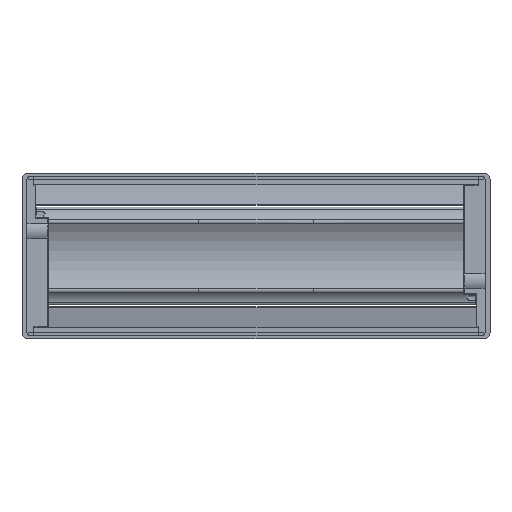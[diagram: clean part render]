
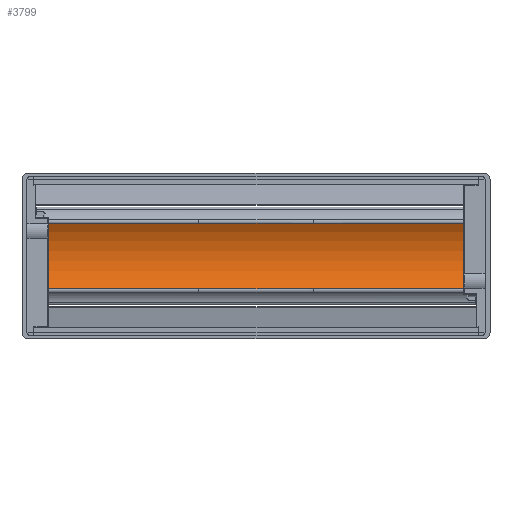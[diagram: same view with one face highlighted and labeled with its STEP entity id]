
A CAD part, front view. The second image highlights one B-rep face of the part: STEP entity #3799.
In plain terms, the highlighted cylindrical face has radius 53.988 mm (diameter 107.977 mm), a partial arc.
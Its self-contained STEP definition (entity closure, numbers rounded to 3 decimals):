
#262 = DIRECTION ( 'NONE',  ( 1., 0., 0. ) ) ;
#325 = DIRECTION ( 'NONE',  ( 0., 0.003, -1. ) ) ;
#403 = CARTESIAN_POINT ( 'NONE',  ( -134., -9.764, -171.615 ) ) ;
#426 = EDGE_CURVE ( 'NONE', #10865, #10960, #11733, .T. ) ;
#430 = DIRECTION ( 'NONE',  ( 0., 0.003, -1. ) ) ;
#574 = CARTESIAN_POINT ( 'NONE',  ( -134., -55.605, -200.135 ) ) ;
#596 = VERTEX_POINT ( 'NONE', #11322 ) ;
#629 = CARTESIAN_POINT ( 'NONE',  ( -89.5, -9.605, -228.397 ) ) ;
#728 = CARTESIAN_POINT ( 'NONE',  ( -0.5, -9.605, -228.397 ) ) ;
#730 = CARTESIAN_POINT ( 'NONE',  ( -89.5, -9.764, -171.615 ) ) ;
#830 = B_SPLINE_CURVE_WITH_KNOTS ( 'NONE', 3,
 ( #8874, #8980, #730, #7082 ),
 .UNSPECIFIED., .F., .F.,
 ( 4, 4 ),
 ( 0.502, 0.973 ),
 .UNSPECIFIED. ) ;
#1150 = CARTESIAN_POINT ( 'NONE',  ( 233., -55.605, -200.135 ) ) ;
#1256 = EDGE_CURVE ( 'NONE', #10960, #5294, #9095, .T. ) ;
#1391 = VERTEX_POINT ( 'NONE', #728 ) ;
#1408 = CARTESIAN_POINT ( 'NONE',  ( 144., -9.605, -228.397 ) ) ;
#1787 = EDGE_CURVE ( 'NONE', #6154, #596, #7894, .T. ) ;
#1910 = ORIENTED_EDGE ( 'NONE', *, *, #7873, .T. ) ;
#2012 = VERTEX_POINT ( 'NONE', #8352 ) ;
#2084 = VECTOR ( 'NONE', #3481, 1000. ) ;
#2296 = CARTESIAN_POINT ( 'NONE',  ( 99.5, -9.605, -228.397 ) ) ;
#2405 = CARTESIAN_POINT ( 'NONE',  ( -0.5, -9.605, -228.397 ) ) ;
#2621 = EDGE_CURVE ( 'NONE', #596, #6487, #830, .T. ) ;
#2736 = EDGE_CURVE ( 'NONE', #5294, #6154, #7353, .T. ) ;
#3079 = CARTESIAN_POINT ( 'NONE',  ( 99.5, -9.764, -171.615 ) ) ;
#3263 = CARTESIAN_POINT ( 'NONE',  ( 233., -9.764, -171.615 ) ) ;
#3292 = DIRECTION ( 'NONE',  ( -1., 0., 0. ) ) ;
#3317 = AXIS2_PLACEMENT_3D ( 'NONE', #9454, #4939, #430 ) ;
#3481 = DIRECTION ( 'NONE',  ( -1., 0., 0. ) ) ;
#3799 = ADVANCED_FACE ( 'NONE', ( #10342 ), #5834, .F. ) ;
#3974 = AXIS2_PLACEMENT_3D ( 'NONE', #1150, #262, #325 ) ;
#4190 = CARTESIAN_POINT ( 'NONE',  ( 233., -9.764, -171.615 ) ) ;
#4219 = ORIENTED_EDGE ( 'NONE', *, *, #5271, .T. ) ;
#4460 = CIRCLE ( 'NONE', #6936, 53.988 ) ;
#4747 = ORIENTED_EDGE ( 'NONE', *, *, #1256, .T. ) ;
#4876 = CARTESIAN_POINT ( 'NONE',  ( 188.5, -9.764, -171.615 ) ) ;
#4939 = DIRECTION ( 'NONE',  ( -1., 0., 0. ) ) ;
#5033 = CARTESIAN_POINT ( 'NONE',  ( 188.5, -9.605, -228.397 ) ) ;
#5233 = VECTOR ( 'NONE', #9639, 1000. ) ;
#5271 = EDGE_CURVE ( 'NONE', #6487, #2012, #4460, .T. ) ;
#5293 = CARTESIAN_POINT ( 'NONE',  ( 99.5, -9.605, -228.397 ) ) ;
#5294 = VERTEX_POINT ( 'NONE', #4190 ) ;
#5618 = EDGE_CURVE ( 'NONE', #10865, #1391, #8811, .T. ) ;
#5658 = ORIENTED_EDGE ( 'NONE', *, *, #2736, .T. ) ;
#5834 = CYLINDRICAL_SURFACE ( 'NONE', #3317, 53.988 ) ;
#5889 = CARTESIAN_POINT ( 'NONE',  ( 144., -9.764, -171.615 ) ) ;
#6080 = CARTESIAN_POINT ( 'NONE',  ( 185.128, -9.605, -228.397 ) ) ;
#6154 = VERTEX_POINT ( 'NONE', #8620 ) ;
#6487 = VERTEX_POINT ( 'NONE', #403 ) ;
#6883 = ORIENTED_EDGE ( 'NONE', *, *, #426, .T. ) ;
#6936 = AXIS2_PLACEMENT_3D ( 'NONE', #574, #3292, #9771 ) ;
#7082 = CARTESIAN_POINT ( 'NONE',  ( -134., -9.764, -171.615 ) ) ;
#7353 = B_SPLINE_CURVE_WITH_KNOTS ( 'NONE', 3,
 ( #3263, #4876, #5889, #3079 ),
 .UNSPECIFIED., .F., .F.,
 ( 4, 4 ),
 ( 0.027, 0.498 ),
 .UNSPECIFIED. ) ;
#7873 = EDGE_CURVE ( 'NONE', #2012, #1391, #11169, .T. ) ;
#7894 = LINE ( 'NONE', #10435, #2084 ) ;
#8352 = CARTESIAN_POINT ( 'NONE',  ( -134., -9.605, -228.397 ) ) ;
#8375 = ORIENTED_EDGE ( 'NONE', *, *, #5618, .F. ) ;
#8620 = CARTESIAN_POINT ( 'NONE',  ( 99.5, -9.764, -171.615 ) ) ;
#8660 = ORIENTED_EDGE ( 'NONE', *, *, #2621, .T. ) ;
#8668 = CARTESIAN_POINT ( 'NONE',  ( 233., -9.605, -228.397 ) ) ;
#8811 = LINE ( 'NONE', #6080, #5233 ) ;
#8874 = CARTESIAN_POINT ( 'NONE',  ( -0.5, -9.764, -171.615 ) ) ;
#8943 = CARTESIAN_POINT ( 'NONE',  ( -45., -9.605, -228.397 ) ) ;
#8980 = CARTESIAN_POINT ( 'NONE',  ( -45., -9.764, -171.615 ) ) ;
#9095 = CIRCLE ( 'NONE', #3974, 53.988 ) ;
#9454 = CARTESIAN_POINT ( 'NONE',  ( 141.5, -55.605, -200.135 ) ) ;
#9639 = DIRECTION ( 'NONE',  ( -1., 0., 0. ) ) ;
#9688 = ORIENTED_EDGE ( 'NONE', *, *, #1787, .T. ) ;
#9771 = DIRECTION ( 'NONE',  ( 0., -0.003, 1. ) ) ;
#10076 = EDGE_LOOP ( 'NONE', ( #1910, #8375, #6883, #4747, #5658, #9688, #8660, #4219 ) ) ;
#10342 = FACE_OUTER_BOUND ( 'NONE', #10076, .T. ) ;
#10435 = CARTESIAN_POINT ( 'NONE',  ( 185.128, -9.764, -171.615 ) ) ;
#10865 = VERTEX_POINT ( 'NONE', #5293 ) ;
#10960 = VERTEX_POINT ( 'NONE', #10978 ) ;
#10978 = CARTESIAN_POINT ( 'NONE',  ( 233., -9.605, -228.397 ) ) ;
#11169 = B_SPLINE_CURVE_WITH_KNOTS ( 'NONE', 3,
 ( #11612, #629, #8943, #2405 ),
 .UNSPECIFIED., .F., .F.,
 ( 4, 4 ),
 ( 0.027, 0.498 ),
 .UNSPECIFIED. ) ;
#11322 = CARTESIAN_POINT ( 'NONE',  ( -0.5, -9.764, -171.615 ) ) ;
#11612 = CARTESIAN_POINT ( 'NONE',  ( -134., -9.605, -228.397 ) ) ;
#11733 = B_SPLINE_CURVE_WITH_KNOTS ( 'NONE', 3,
 ( #2296, #1408, #5033, #8668 ),
 .UNSPECIFIED., .F., .F.,
 ( 4, 4 ),
 ( 0.502, 0.973 ),
 .UNSPECIFIED. ) ;
